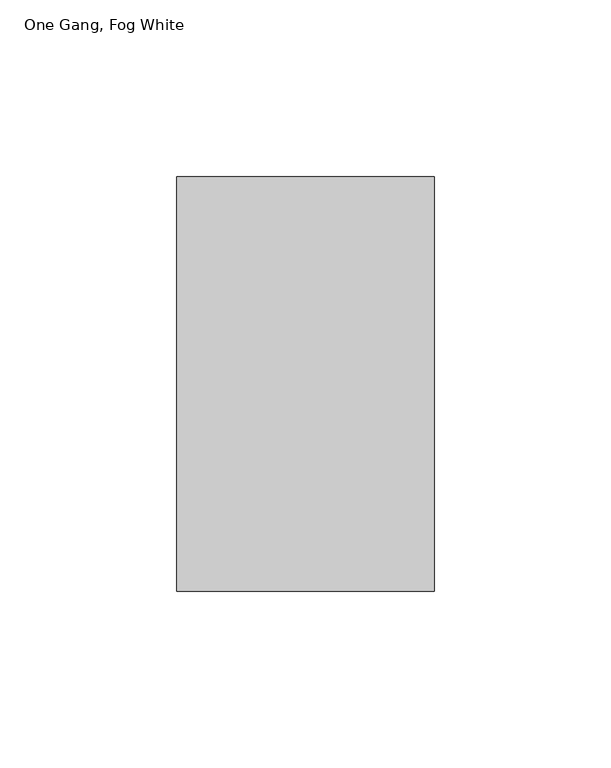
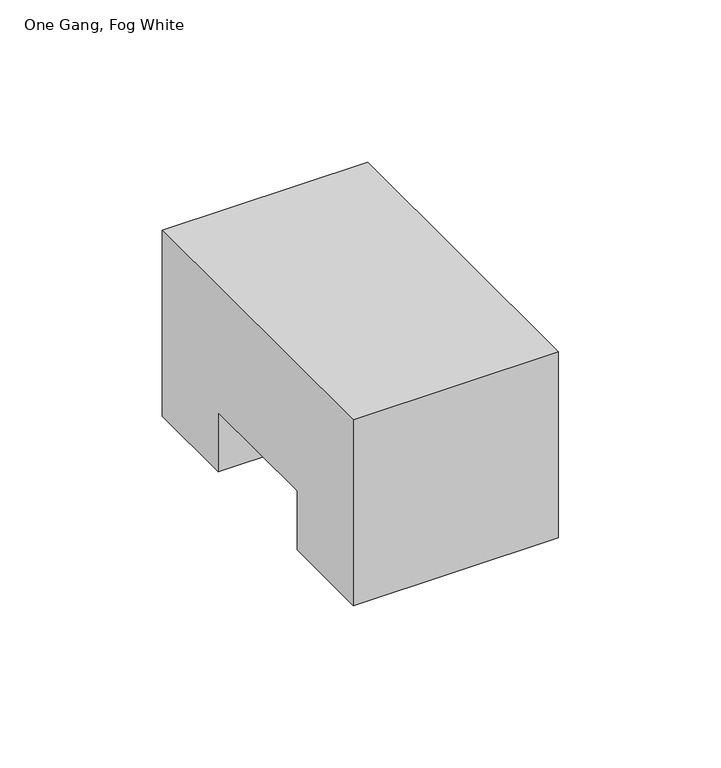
"""IFC4 building model written with IfcOpenShell, lengths in millimetres: proxy geometry, Device_Box-2400_Series-Wiremold-Labor_Saving : One Gang, Fog White."""

from ifc_helpers import new_model, si_unit, frame, origin, place, context, project, spatial, polyline, outline, extrude, source, transform, mapped, element, save


def one_gang_fog_white_aed4aa5e(model_context):
    return source(origin(), model_context, "Body", "SweptSolid", [
        extrude(outline(polyline([(58.7375, 47.625), (58.7375, -22.225), (24.209375, -22.225), (24.209375, 0.0), (-24.209375, 0.0), (-24.209375, -22.225), (-58.7375, -22.225), (-58.7375, 47.625), (58.7375, 47.625)])), frame((-36.5125, 0.0, 0.0), z_axis=(1.0, 0.0, 0.0), x_axis=(0.0, 1.0, 0.0)), (0.0, 0.0, 1.0), 73.025),
    ])


if __name__ == "__main__":
    model = new_model("IFC4")
    model_context = context("Model", 3, world=origin())
    ifc_project = project(units=[si_unit("LENGTHUNIT", "METRE", prefix="MILLI")], contexts=[model_context])
    site = spatial("IfcSite", under=ifc_project)
    building = spatial("IfcBuilding", under=site)
    placement = place(None, origin())
    one_gang_fog_white_shape = one_gang_fog_white_aed4aa5e(model_context)
    element("IfcBuildingElementProxy", 1, Name="Device_Box-2400_Series-Wiremold-Labor_Saving : One Gang, Fog White", ObjectType="Device_Box-2400_Series-Wiremold-Labor_Saving : One Gang, Fog White", at=placement, inside=building, context=model_context, shape_type="MappedRepresentation", body=[
        mapped(one_gang_fog_white_shape, transform((0.0, 0.0, 0.0), x_axis=(1.0, 0.0, 0.0), y_axis=(0.0, 1.0, 0.0), z_axis=(0.0, 0.0, 1.0))),
    ])
    save(model, "model.ifc")
